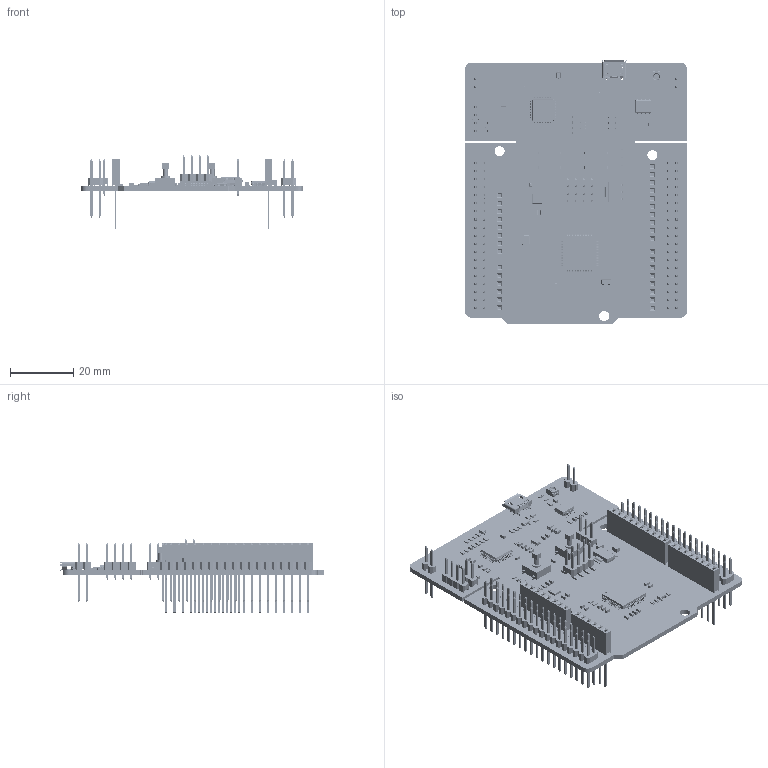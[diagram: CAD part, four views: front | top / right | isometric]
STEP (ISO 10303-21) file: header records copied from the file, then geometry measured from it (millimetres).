
FILE_DESCRIPTION(('Open CASCADE Model'),'2;1');
FILE_NAME('Open CASCADE Shape Model','2017-10-30T16:37:05',('Author'),( 'Open CASCADE'),'Open CASCADE STEP processor 6.8','Open CASCADE 6.8' ,'Unknown');
FILE_SCHEMA(('AUTOMOTIVE_DESIGN { 1 0 10303 214 1 1 1 1 }'));
Length unit declared in the file: millimetre
Products named in the file (204): PCB; Board; X2; User_Library-User_Library-Siward_SX3225; X1; B2; 19990; B1; U2; User_Library-dfn6_3x3_rm0_95; JP2; pin_header_a-sl254-dg-g08mp1; D1; User_Library-SOD323-1; CN2; pin_header_aw140-eg-g04b; U3; User_Library-LQFP64-1; U6; SW3dPS-SOT-666; U4; User_Library-SOT23-5-5; User_Library-SOT23-5-5_SOT23-5_BODY; User_Library-SOT23-5-5_SOT23_LEG; U7; 1064819520; Open_CASCADE_STEP_translator_6.8_1.1; Body; Open_CASCADE_STEP_translator_6.8_1.2.1; Thermal_Shape; Pin_Shape; 1064822848; Open_CASCADE_STEP_translator_6.8_2.1; Open_CASCADE_STEP_translator_6.8_2.2.1; Leader; U1; User_Library-lqfp48-1; R15; R0603; R16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
Assembly tree (295 placements, depth 5):
  PCB
    Board
    X2
      User_Library-User_Library-Siward_SX3225
    X1
      User_Library-User_Library-Siward_SX3225
    B2
      19990
    B1
      19990
    U2
      User_Library-dfn6_3x3_rm0_95
    JP2
      pin_header_a-sl254-dg-g08mp1
    D1
      User_Library-SOD323-1
    CN2
      pin_header_aw140-eg-g04b
    U3
      User_Library-LQFP64-1
    U6
      SW3dPS-SOT-666
    U4
      User_Library-SOT23-5-5
        User_Library-SOT23-5-5_SOT23-5_BODY
        User_Library-SOT23-5-5_SOT23_LEG  x5
    U7
      1064819520
        Open_CASCADE_STEP_translator_6.8_1.1
        Body
          Open_CASCADE_STEP_translator_6.8_1.2.1
        Thermal_Shape
        Pin_Shape  x8
      1064822848
        Open_CASCADE_STEP_translator_6.8_2.1
        Body
          Open_CASCADE_STEP_translator_6.8_2.2.1
        Leader  x8
    U1
      User_Library-lqfp48-1
    R15
      R0603
    R16
      R0603
    R6
      R0603
    R5
      R0603
    R10
      R0603
    R20
      R0603
    R21
      R0603
    R22
      R0603
    R25
      R0603
    R24
      R0603
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Bounding box: 70.13 x 83.48 x 23.32 mm (x, y, z)
Volume: 12700.7 mm3; surface area: 25650.9 mm2
Topology: 270 solids, 1236 shells, 12699 faces, 34493 edges, 23583 vertices
Faces by surface type: plane 7844, bspline 3117, cylinder 1668, sphere 42, torus 24, cone 4
Full cylindrical faces by diameter (mm): 0.381 x1, 0.5 x1, 0.95 x89, 1.02 x32, 3.2 x3
Entity records: 267075 total; most frequent: CARTESIAN_POINT 65523, ORIENTED_EDGE 34458, DIRECTION 33381, EDGE_CURVE 19695, LINE 16535, VECTOR 16535, VERTEX_POINT 14379, AXIS2_PLACEMENT_3D 8423
